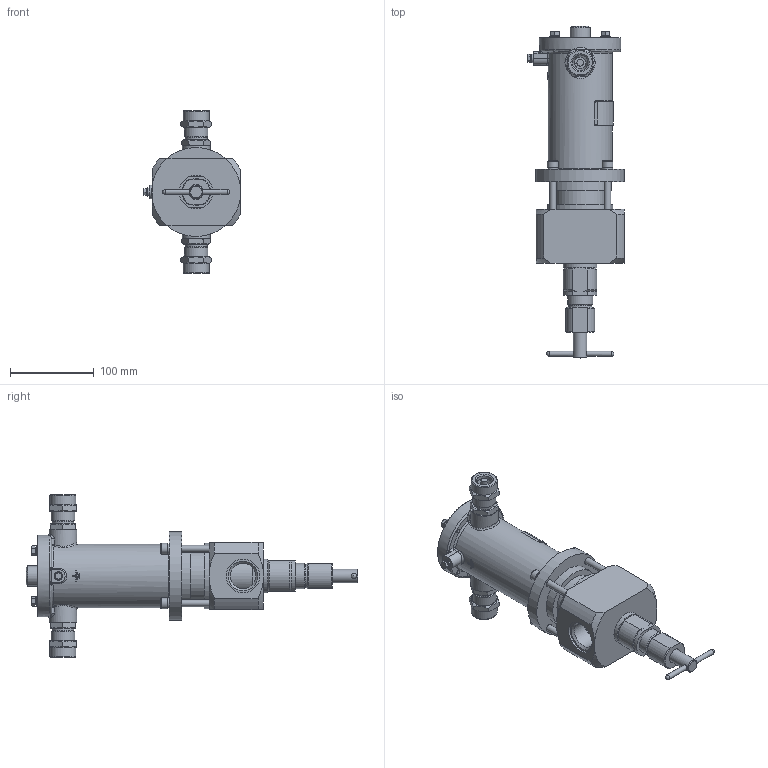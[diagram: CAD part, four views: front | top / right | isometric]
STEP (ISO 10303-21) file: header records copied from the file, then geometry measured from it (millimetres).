
FILE_DESCRIPTION(('STEP AP203'), '1');
FILE_NAME('捇迕-玿 DN25PN25-捔-G1-0', '', ('UNSPECIFIED'), ('UNSPECIFIED'), 'ASCON STEP Converter 1.6', 'ASCON Math Kernel', '');
FILE_SCHEMA(('CONFIG_CONTROL_DESIGN'));
Length unit declared in the file: millimetre
Bounding box: 115.5 x 395.5 x 194 mm (x, y, z)
Volume: 1435862 mm3; surface area: 199798.1 mm2
Topology: 3 solids, 3 shells, 1718 faces, 4673 edges, 3053 vertices
Faces by surface type: cylinder 909, plane 647, cone 101, bspline 27, torus 16, extrusion 16, sphere 2
Full cylindrical faces by diameter (mm): 3.5 x2, 4.134 x1, 4.917 x4, 5 x2, 6 x11, 6.2 x1, 6.5 x1, 8 x6, 8.2 x1, 9 x4, 10 x1, 11 x1, 12 x4, 13 x4, 16 x3, 17 x2, 18 x1, 18.632 x2, 23 x1, 24 x1, 25 x1, 26 x2, 27.8 x1, 28 x2, 28.5 x1, 30 x1, 30.291 x2, 31 x2, 33 x2, 34.5 x1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
Entity records: 79200 total; most frequent: CARTESIAN_POINT 21627, DIRECTION 9511, ORIENTED_EDGE 8984, EDGE_CURVE 4492, AXIS2_PLACEMENT_3D 3673, VERTEX_POINT 3040, VECTOR 2165, LINE 2149
